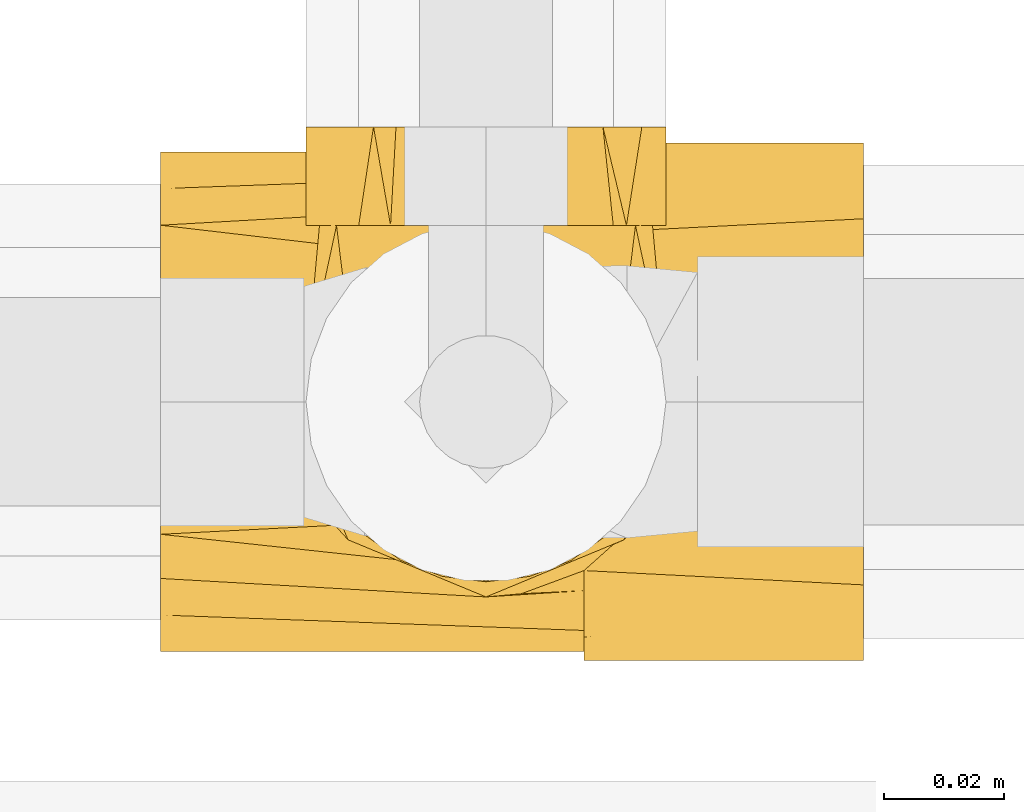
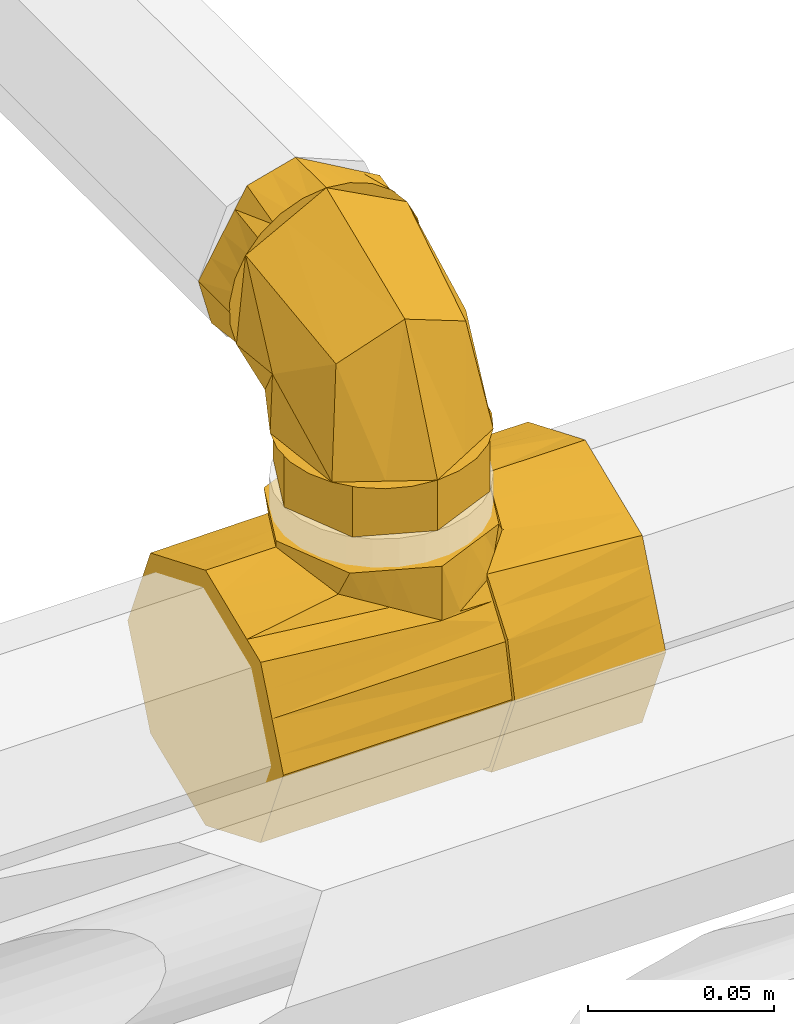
# One storey, part 178 of 652: 2 coverings.
"""IFC2X3 building model written with IfcOpenShell, lengths in millimetres."""

from ifc_helpers import new_model, entity, si_unit, converted_unit, direction, frame, origin, place, context, subcontext, project, spatial, face_set, faceted_brep, surface_model, material, type_object, element, save


model = new_model("IFC2X3")

# Units and contexts
model_context = context("Model", 3, precision=0.01, world=frame((0.0, 0.0, 308426.39999999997)), true_north=direction((6.123233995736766e-17, 1.0)))
plan_context = context("Plan", 3, precision=0.01, world=frame((0.0, 0.0, 308426.39999999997)), true_north=direction((6.123233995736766e-17, 1.0)))
body_context = subcontext(model_context, "Body", "Model", "MODEL_VIEW")
ifc_project = project(units=[si_unit("LENGTHUNIT", "METRE", prefix="MILLI"), si_unit("AREAUNIT", "SQUARE_METRE"), si_unit("VOLUMEUNIT", "CUBIC_METRE"), converted_unit("PLANEANGLEUNIT", "DEGREE", entity("IfcPlaneAngleMeasure", 0.017453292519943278), si_unit("PLANEANGLEUNIT", "RADIAN"), dimensions=[0, 0, 0, 0, 0, 0, 0])], contexts=[model_context, plan_context])

# Site, building, storey
site_placement = place(None, origin())
site = spatial("IfcSite", under=ifc_project, at=site_placement, Name="Default", CompositionType="ELEMENT")
building_placement = place(site_placement, origin())
building = spatial("IfcBuilding", under=site, at=building_placement, CompositionType="ELEMENT")
storey_placement = place(building_placement, frame((0.0, 0.0, 1730.6999999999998)))
storey = spatial("IfcBuildingStorey", under=building, at=storey_placement, Name="EG_Produktion_FFB", CompositionType="ELEMENT", Elevation=1730.6999999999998)

# Coverings
ifc_material = material(Name="Dämmung - Armaflex-Schlauch")
covering_type = type_object("IfcCoveringType", Name="Rohrdämmung außen:Armaflex-Schlauch", PredefinedType="INSULATION")
covering_1_placement = place(storey_placement, frame((67795.55274997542, 40830.09072776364, 3844.9092722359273)))
element("IfcCovering", 1, at=covering_1_placement, inside=storey, type_object=covering_type, material=ifc_material, Name="Rohrdämmung außen:Armaflex-Schlauch", ObjectType="Rohrdämmung außen:Armaflex-Schlauch", PredefinedType="INSULATION", context=body_context, shape_type="Brep", body=[
    faceted_brep([(70.84175000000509, 75.53689535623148, -75.53689535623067), (70.84175000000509, 67.87998957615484, -78.70848957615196), (70.84175000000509, 60.223083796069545, -81.88008379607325), (70.84175000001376, 53.27280760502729, -84.75898245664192), (70.84175000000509, 44.909272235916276, -88.22327223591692), (70.84175000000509, 36.545735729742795, -84.75898198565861), (70.84175000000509, 29.595460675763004, -81.88008379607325), (70.84175000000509, 21.938554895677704, -78.70848957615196), (70.84175000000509, 14.281649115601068, -75.53689535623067), (70.84175000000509, 11.110054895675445, -67.87998957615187), (70.84175000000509, 7.938460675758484, -60.22308379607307), (70.84175000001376, 5.059562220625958, -53.27280810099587), (70.84175000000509, 1.5952722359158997, -44.909272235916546), (70.84175000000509, 3.5716617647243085, -35.8705101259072), (70.84175000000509, 5.54805129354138, -26.83174801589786), (70.84175000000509, 11.113229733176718, -19.445522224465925), (70.84175000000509, 16.678408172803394, -12.05929643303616), (70.84175000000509, 16.678408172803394, -14.098607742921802), (70.84174999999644, 13.318469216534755, -18.78714706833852), (70.84175000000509, 9.958530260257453, -23.475686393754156), (70.84175000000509, 6.6600618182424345, -28.078448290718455), (70.84174999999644, 4.890417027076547, -36.49386026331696), (70.84175000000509, 3.1207722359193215, -44.909272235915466), (70.84175000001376, 6.180664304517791, -52.29650516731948), (70.84175000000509, 9.240556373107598, -59.683738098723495), (70.84175000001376, 12.300448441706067, -67.07097103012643), (70.84175000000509, 15.360340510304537, -74.45820396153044), (70.84175000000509, 24.904273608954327, -78.41143048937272), (70.84175000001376, 34.44820670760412, -82.36465701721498), (70.84175000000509, 44.909272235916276, -86.69777223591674), (70.84175000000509, 52.296505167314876, -83.63788016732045), (70.84175000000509, 59.683738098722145, -80.57798809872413), (70.84175000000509, 67.07097103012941, -77.51809603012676), (70.84175000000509, 74.45820396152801, -74.45820396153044), (70.84175000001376, 78.41143078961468, -64.91427013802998), (70.84175000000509, 82.36465761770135, -55.37033631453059), (70.84175000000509, 86.69777223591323, -44.909272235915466), (70.84175000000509, 84.92812744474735, -36.493860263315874), (70.84175000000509, 83.15848265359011, -28.078448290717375), (70.84174999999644, 79.86001420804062, -23.47568638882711), (70.84175000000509, 76.50007525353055, -18.78714706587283), (70.84175000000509, 74.8201057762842, -16.442877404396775), (70.84175000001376, 73.98012103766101, -15.270742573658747), (70.84175000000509, 73.14013629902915, -14.098607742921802), (70.84175000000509, 73.14013629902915, -12.059296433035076), (70.84175000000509, 78.70531473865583, -19.445522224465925), (70.84175000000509, 84.27049317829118, -26.83174801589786), (70.84175000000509, 86.24688270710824, -35.870510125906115), (70.84175000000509, 88.22327223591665, -44.909272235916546), (70.84175000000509, 84.75898211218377, -53.272808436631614), (70.84175000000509, 81.29469198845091, -61.63634463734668), (70.84175000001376, 78.4157936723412, -68.58661999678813), (117.59400000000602, 4.766866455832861, -52.56617801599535), (117.59399999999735, 7.938460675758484, -60.22308379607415), (117.59400000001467, 11.110054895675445, -67.87998957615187), (117.59400000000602, 14.281649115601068, -75.53689535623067), (117.59400000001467, 21.23192365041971, -78.41579333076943), (117.59400000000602, 28.18219818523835, -81.2946913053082), (117.59400000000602, 36.54573521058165, -84.75898177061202), (117.59400000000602, 44.909272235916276, -88.22327223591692), (117.59400000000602, 52.56617801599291, -85.05167801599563), (117.59400000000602, 60.223083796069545, -81.88008379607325), (117.59400000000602, 67.87998957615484, -78.70848957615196), (117.59400000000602, 75.53689535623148, -75.53689535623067), (117.59400000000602, 78.7084895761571, -67.87998957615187), (117.59400000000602, 81.88008379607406, -60.22308379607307), (117.59400000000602, 85.05167801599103, -52.56617801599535), (117.59400000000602, 88.22327223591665, -44.909272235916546), (117.59399999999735, 84.75898247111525, -36.54573690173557), (117.59400000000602, 81.88008379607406, -29.595460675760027), (117.59400000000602, 78.7084895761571, -21.93855489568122), (117.59400000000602, 75.53689535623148, -14.281649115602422), (117.59400000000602, 67.87998957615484, -11.11005489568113), (117.59399999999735, 60.223083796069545, -7.9384606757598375), (117.59399999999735, 52.56617801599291, -4.766866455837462), (117.59400000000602, 44.909272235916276, -1.5952722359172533), (117.59399999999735, 36.54573689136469, -5.059562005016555), (117.59400000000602, 29.595460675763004, -7.9384606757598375), (117.59399999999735, 21.938554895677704, -11.11005489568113), (117.59400000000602, 14.281649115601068, -14.281649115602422), (117.59400000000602, 11.110054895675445, -21.93855489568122), (117.59400000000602, 7.938460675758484, -29.595460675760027), (117.59400000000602, 4.766866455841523, -37.252366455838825), (117.59400000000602, 1.5952722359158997, -44.909272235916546), (83.84790964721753, 35.14120450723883, -3.923265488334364), (87.09325000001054, 44.909272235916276, -1.5952722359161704), (86.8904162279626, 44.29876800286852, -1.7407718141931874), (86.68758245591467, 43.688263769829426, -1.8862713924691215), (86.28191491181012, 42.467255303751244, -2.1772705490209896), (85.87624736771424, 41.2462468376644, -2.4682697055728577), (85.47057982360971, 40.02523837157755, -2.7592688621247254), (85.06491227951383, 38.80422990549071, -3.0502680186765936), (84.65924473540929, 37.583221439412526, -3.3412671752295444), (80.60256929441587, 25.373136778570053, -6.2512587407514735), (75.72215964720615, 21.025772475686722, -9.155277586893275), (83.03657455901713, 32.6991875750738, -4.5052638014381), (82.2252394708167, 30.257170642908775, -5.087262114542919), (84.06491373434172, 58.64081661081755, -3.8295048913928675), (84.44345576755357, 56.92437356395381, -3.5502258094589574), (84.82199780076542, 55.20793051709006, -3.270946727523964), (85.20053983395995, 53.491487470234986, -2.991667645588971), (85.5790818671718, 51.77504442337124, -2.7123885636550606), (85.95762390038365, 50.058601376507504, -2.4331094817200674), (86.14689491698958, 49.20037985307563, -2.2934699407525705), (86.3361659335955, 48.34215832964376, -2.153830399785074), (86.52543695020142, 47.48393680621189, -2.0141908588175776), (86.71470796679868, 46.625715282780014, -1.8745513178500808), (86.90397898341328, 45.76749375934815, -1.734911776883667), (77.45333186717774, 65.89047645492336, -7.9444006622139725), (80.75912280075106, 62.26564653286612, -5.886952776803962), (82.41201826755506, 60.45323157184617, -4.858228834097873), (0.0, 74.45820396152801, -15.360340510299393), (0.0, 77.51809603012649, -22.74757344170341), (0.0, 80.57798809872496, -30.134806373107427), (0.0, 83.63788016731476, -37.522039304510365), (0.0, 86.69777223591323, -44.9092722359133), (0.0, 83.63788016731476, -52.296505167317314), (0.0, 80.57798809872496, -59.683738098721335), (0.0, 77.51809603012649, -67.07097103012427), (0.0, 74.45820396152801, -74.4582039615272), (0.0, 67.07097103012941, -77.51809603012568), (0.0, 59.683738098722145, -80.57798809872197), (0.0, 52.296505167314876, -83.63788016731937), (0.0, 44.909272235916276, -86.6977722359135), (0.0, 37.52203930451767, -83.63788016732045), (0.0, 30.134806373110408, -80.57798809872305), (0.0, 22.74757344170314, -77.51809603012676), (0.0, 15.360340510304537, -74.4582039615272), (0.0, 12.300448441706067, -67.07097103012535), (0.0, 9.240556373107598, -59.683738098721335), (0.0, 6.180664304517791, -52.296505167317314), (0.0, 3.1207722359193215, -44.9092722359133), (0.0, 5.287329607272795, -39.6787400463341), (0.0, 9.240556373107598, -30.134806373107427), (0.0, 12.30044844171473, -22.74757344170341), (0.0, 15.360340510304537, -15.360340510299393), (0.0, 22.74757344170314, -12.300448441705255), (0.0, 30.134806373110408, -9.240556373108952), (0.0, 37.52203930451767, -6.180664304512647), (0.0, 44.909272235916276, -3.120772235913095), (0.0, 52.296505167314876, -6.180664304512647), (0.0, 59.683738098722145, -9.240556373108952), (0.0, 67.07097103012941, -12.300448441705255), (29.171926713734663, 24.2472455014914, -8.586285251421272), (54.44725000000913, 12.26327223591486, -18.82254349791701), (21.801250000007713, 44.909272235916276, -3.1207722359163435), (60.37602925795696, 12.806143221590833, -18.157303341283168), (41.809588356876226, 18.2552588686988, -13.70441437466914), (35.49075753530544, 21.251252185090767, -11.145349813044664), (25.486588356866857, 34.57825886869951, -5.853528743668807), (23.643919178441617, 39.74376555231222, -4.487150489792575), (47.630199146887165, 15.495490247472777, -16.06170470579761), (27.32925753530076, 29.412752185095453, -7.219906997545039), (34.14671943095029, 70.47584757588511, -11.854333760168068), (44.29698471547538, 74.01555990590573, -15.338438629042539), (54.44725000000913, 77.55527223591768, -18.822543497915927), (27.973984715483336, 57.69255990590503, -7.487552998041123), (31.060352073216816, 64.0842037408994, -9.670943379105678), (24.887617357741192, 51.30091607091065, -5.3041626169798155), (65.86359774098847, 75.49404492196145, -16.433836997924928), (67.31126014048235, 74.80952086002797, -15.754744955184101), (68.7589225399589, 74.12499679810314, -15.075652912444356), (62.20681236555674, 76.15427935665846, -17.198966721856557), (23.344433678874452, 48.10509415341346, -4.212467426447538), (60.2183019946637, 14.653720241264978, -1.050322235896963), (65.98935398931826, 17.044168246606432, -1.050322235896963), (71.76040598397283, 19.434616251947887, -1.050322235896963), (77.5314579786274, 21.825064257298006, -1.050322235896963), (79.92190598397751, 27.596116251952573, -1.050322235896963), (81.11712998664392, 30.481642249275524, -1.050322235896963), (82.31235398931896, 33.36716824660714, -1.050322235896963), (83.50757799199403, 36.252694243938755, -1.0503222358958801), (84.10518999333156, 37.6954572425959, -1.050322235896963), (84.70280199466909, 39.138220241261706, -1.050322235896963), (85.30041399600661, 40.58098323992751, -1.050322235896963), (85.89802599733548, 42.02374623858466, -1.050322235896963), (86.19683199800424, 42.7451277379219, -1.050322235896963), (86.49563799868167, 43.46650923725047, -1.050322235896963), (86.79444399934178, 44.18789073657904, -1.050322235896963), (87.09325000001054, 44.909272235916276, -1.050322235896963), (86.79444399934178, 45.63065373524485, -1.050322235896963), (86.49563799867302, 46.35203523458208, -1.0503222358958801), (86.19683199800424, 47.073416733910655, -1.050322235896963), (85.89802599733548, 47.79479823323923, -1.050322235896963), (85.30041399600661, 49.23756123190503, -1.050322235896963), (84.70280199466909, 50.68032423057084, -1.050322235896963), (84.10518999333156, 52.12308722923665, -1.050322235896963), (83.50757799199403, 53.5658502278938, -1.050322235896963), (82.9099659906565, 55.0086132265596, -1.050322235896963), (82.31235398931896, 56.45137622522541, -1.050322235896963), (81.11712998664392, 59.33690222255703, -1.050322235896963), (79.92190598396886, 62.22242821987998, -1.050322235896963), (77.5314579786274, 67.99348021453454, -1.050322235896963), (71.76040598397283, 70.38392821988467, -1.050322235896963), (65.98935398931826, 72.77437622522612, -1.050322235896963), (60.2183019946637, 75.16482423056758, -1.050322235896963), (54.44725000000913, 77.55527223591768, -1.050322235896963), (48.67619800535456, 75.16482423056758, -1.050322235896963), (42.905146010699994, 72.77437622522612, -1.050322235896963), (37.134094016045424, 70.38392821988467, -1.050322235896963), (31.363042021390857, 67.99348021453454, -1.050322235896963), (28.972594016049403, 62.22242821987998, -1.050322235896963), (26.582146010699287, 56.45137622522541, -1.050322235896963), (24.191698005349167, 50.68032423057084, -1.050322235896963), (22.99647400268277, 47.79479823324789, -1.050322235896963), (21.801250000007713, 44.909272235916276, -1.050322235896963), (24.191698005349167, 39.138220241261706, -1.050322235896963), (26.582146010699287, 33.36716824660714, -1.050322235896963), (28.972594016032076, 27.596116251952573, -1.050322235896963), (31.363042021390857, 21.825064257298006, -1.050322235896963), (37.134094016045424, 19.434616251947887, -1.050322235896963), (42.905146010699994, 17.044168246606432, -1.050322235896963), (48.67619800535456, 14.653720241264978, -1.050322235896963), (54.44725000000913, 12.26327223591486, -1.050322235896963), (54.44725000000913, 77.55527223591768, -13.519347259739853)], [[[0, 1, 2, 3, 4, 5, 6, 7, 8, 9, 10, 11, 12, 13, 14, 15, 16, 17, 18, 19, 20, 21, 22, 23, 24, 25, 26, 27, 28, 29, 30, 31, 32, 33, 34, 35, 36, 37, 38, 39, 40, 41, 42, 43, 44, 45, 46, 47, 48, 49, 50, 51]], [[52, 53, 54, 55, 56, 57, 58, 59, 60, 61, 62, 63, 64, 65, 66, 67, 68, 69, 70, 71, 72, 73, 74, 75, 76, 77, 78, 79, 80, 81, 82, 83]], [[57, 56, 55, 8, 7, 6, 5, 4, 59, 58]], [[8, 55, 54, 53, 52, 83, 12, 11, 10, 9]], [[15, 80, 79]], [[84, 77, 76]], [[13, 81, 14]], [[81, 80, 14]], [[78, 16, 79]], [[76, 85, 86, 87, 88, 89, 90, 91, 92, 84]], [[14, 80, 15]], [[78, 93, 94, 16]], [[82, 12, 83]], [[79, 16, 15]], [[77, 84, 95, 96, 93]], [[12, 82, 13]], [[76, 75, 85]], [[78, 77, 93]], [[82, 81, 13]], [[45, 71, 70]], [[47, 69, 68]], [[74, 97, 98, 99, 100, 101, 102, 103, 104, 105, 106, 107, 85]], [[44, 72, 71]], [[108, 73, 72]], [[71, 45, 44]], [[69, 47, 46]], [[74, 73, 97]], [[73, 108, 109, 110, 97]], [[68, 48, 47]], [[74, 85, 75]], [[70, 46, 45]], [[70, 69, 46]], [[72, 44, 108]], [[68, 67, 48]], [[63, 0, 51, 50, 49, 48, 67, 66, 65, 64]], [[0, 63, 62, 61, 60, 59, 4, 3, 2, 1]], [[111, 112, 113, 114, 115, 116, 117, 118, 119, 120, 121, 122, 123, 124, 125, 126, 127, 128, 129, 130, 131, 132, 133, 134, 135, 136, 137, 138, 139, 140, 141, 142]], [[29, 28, 27, 26, 127, 126, 125, 124, 123]], [[127, 26, 25, 24, 23, 22, 131, 130, 129, 128]], [[133, 21, 20]], [[143, 137, 136]], [[132, 22, 21]], [[134, 19, 144]], [[138, 145, 139]], [[134, 133, 19]], [[18, 17, 146]], [[144, 18, 146]], [[136, 147, 148, 143]], [[19, 18, 144]], [[135, 147, 136]], [[149, 138, 137]], [[22, 132, 131]], [[138, 149, 150, 145]], [[133, 132, 21]], [[135, 144, 151, 147]], [[144, 135, 134]], [[137, 143, 152, 149]], [[133, 20, 19]], [[111, 153, 154, 155]], [[153, 111, 142]], [[142, 156, 157, 153]], [[140, 158, 156]], [[42, 41, 40, 159, 160, 161, 43]], [[142, 141, 140, 156]], [[113, 37, 114]], [[40, 39, 155]], [[40, 155, 162, 159]], [[39, 112, 155]], [[113, 39, 38]], [[36, 115, 114]], [[139, 145, 163, 158]], [[139, 158, 140]], [[113, 38, 37]], [[36, 114, 37]], [[112, 39, 113]], [[112, 111, 155]], [[33, 119, 118, 117, 116, 115, 36, 35, 34]], [[32, 31, 30, 29, 123, 122, 121, 120, 119, 33]], [[164, 165, 166, 167, 168, 169, 170, 171, 172, 173, 174, 175, 176, 177, 178, 179, 180, 181, 182, 183, 184, 185, 186, 187, 188, 189, 190, 191, 192, 193, 194, 195, 196, 197, 198, 199, 200, 201, 202, 203, 204, 205, 206, 207, 208, 209, 210, 211, 212, 213]], [[168, 167, 93]], [[88, 177, 176, 175]], [[16, 94, 166]], [[171, 170, 84]], [[167, 94, 93]], [[166, 165, 16]], [[213, 144, 146]], [[16, 146, 17]], [[146, 165, 164, 213]], [[168, 96, 169]], [[170, 95, 84]], [[169, 95, 170]], [[90, 174, 173]], [[95, 169, 96]], [[96, 168, 93]], [[92, 171, 84]], [[173, 91, 90]], [[171, 92, 172]], [[172, 91, 173]], [[87, 178, 177]], [[91, 172, 92]], [[89, 174, 90]], [[175, 89, 88]], [[174, 89, 175]], [[86, 179, 178]], [[177, 88, 87]], [[179, 86, 85]], [[178, 87, 86]], [[94, 167, 166]], [[165, 146, 16]], [[147, 210, 148]], [[207, 152, 208]], [[211, 151, 213, 212]], [[151, 211, 147]], [[152, 143, 208]], [[206, 150, 149]], [[143, 209, 208]], [[150, 205, 145]], [[207, 149, 152]], [[149, 207, 206]], [[205, 150, 206]], [[209, 143, 148]], [[144, 213, 151]], [[210, 147, 211]], [[210, 209, 148]], [[157, 201, 200]], [[156, 202, 201]], [[158, 203, 202]], [[199, 198, 153, 200]], [[154, 153, 198]], [[155, 154, 197]], [[163, 204, 203]], [[157, 156, 201]], [[197, 196, 214, 155]], [[200, 153, 157]], [[202, 156, 158]], [[204, 145, 205]], [[203, 158, 163]], [[145, 204, 163]], [[154, 198, 197]], [[44, 43, 161, 160, 159]], [[194, 159, 195]], [[108, 191, 110, 109]], [[44, 194, 193]], [[191, 108, 192]], [[101, 186, 185]], [[101, 185, 102]], [[190, 97, 110]], [[97, 190, 189]], [[159, 194, 44]], [[97, 189, 98]], [[108, 44, 193]], [[110, 191, 190]], [[193, 192, 108]], [[183, 105, 104]], [[188, 98, 189]], [[187, 100, 99]], [[99, 188, 187]], [[100, 186, 101]], [[98, 188, 99]], [[181, 107, 106]], [[104, 184, 183]], [[186, 100, 187]], [[184, 104, 103, 102]], [[102, 185, 184]], [[180, 85, 107]], [[106, 182, 181]], [[182, 106, 105]], [[105, 183, 182]], [[85, 180, 179]], [[107, 181, 180]], [[214, 196, 195]], [[214, 162, 155]], [[162, 195, 159]], [[195, 162, 214]]]),
])
covering_2_placement = place(storey_placement, frame((67818.2922277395, 40843.29222776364, 3853.982749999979)))
element("IfcCovering", 2, at=covering_2_placement, inside=storey, type_object=covering_type, material=ifc_material, Name="Rohrdämmung außen:Armaflex-Schlauch", ObjectType="Rohrdämmung außen:Armaflex-Schlauch", PredefinedType="INSULATION", context=body_context, shape_type="SurfaceModel", body=[
    surface_model("IfcFaceBasedSurfaceModel", [(37.72833167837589, 61.21227223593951, 16.51275000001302), (44.705724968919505, 58.87053868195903, 16.51275000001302), (50.906653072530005, 54.90616939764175, 16.51275000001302), (55.96068805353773, 49.55598588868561, 16.512750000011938), (59.565914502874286, 43.13959473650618, 16.512750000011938), (61.50696520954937, 36.0402951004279, 16.512750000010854), (61.66788665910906, 28.682181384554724, 16.512750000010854), (60.03906580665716, 21.504808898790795, 16.51275000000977), (56.71780433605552, 14.93693592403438, 16.51275000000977), (51.902506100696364, 9.370910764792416, 16.512750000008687), (45.880824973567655, 5.139233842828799, 16.512750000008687), (39.012481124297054, 2.494694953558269, 16.512750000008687), (31.707772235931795, 1.5952722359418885, 16.512750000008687), (24.403063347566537, 2.494694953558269, 16.512750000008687), (17.53471949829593, 5.139233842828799, 16.512750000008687), (11.513038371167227, 9.370910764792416, 16.512750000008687), (6.6977401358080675, 14.93693592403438, 16.51275000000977), (3.3764786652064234, 21.504808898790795, 16.51275000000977), (1.7476578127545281, 28.682181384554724, 16.512750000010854), (1.9085792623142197, 36.0402951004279, 16.512750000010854), (3.8496299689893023, 43.13959473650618, 16.512750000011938), (7.454856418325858, 49.55598588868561, 16.512750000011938), (12.508891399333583, 54.90616939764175, 16.51275000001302), (18.709819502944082, 58.87053868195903, 16.51275000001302), (25.6872127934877, 61.21227223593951, 16.51275000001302), (44.705724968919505, 61.21227223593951, 18.85448355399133), (50.906653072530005, 61.21227223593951, 22.81885283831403), (55.96068805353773, 61.21227223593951, 28.169036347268), (59.565914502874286, 61.21227223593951, 34.58542749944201), (61.50696520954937, 61.21227223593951, 41.68472713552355), (61.66788665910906, 61.21227223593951, 49.04284085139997), (60.03906580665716, 61.21227223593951, 56.22021333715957), (56.71780433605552, 61.21227223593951, 62.78808631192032), (51.902506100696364, 61.21227223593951, 68.35411147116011), (45.880824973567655, 61.21227223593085, 72.58578839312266), (39.012481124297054, 61.21227223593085, 75.2303272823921), (31.707772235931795, 61.21227223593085, 76.1297500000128), (24.403063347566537, 61.21227223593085, 75.2303272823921), (17.53471949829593, 61.21227223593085, 72.58578839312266), (11.513038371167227, 61.21227223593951, 68.35411147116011), (6.6977401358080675, 61.21227223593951, 62.78808631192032), (3.3764786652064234, 61.21227223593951, 56.22021333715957), (1.7476578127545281, 61.21227223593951, 49.04284085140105), (1.9085792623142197, 61.21227223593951, 41.68472713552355), (3.8496299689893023, 61.21227223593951, 34.58542749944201), (7.454856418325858, 61.21227223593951, 28.169036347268), (12.508891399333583, 61.21227223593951, 22.81885283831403), (18.709819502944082, 61.21227223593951, 18.85448355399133), (55.881087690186, 52.31852663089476, 23.87781671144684), (48.448983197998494, 61.21100709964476, 25.383538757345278), (48.448983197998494, 52.34178102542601, 16.512568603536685), (51.80226688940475, 21.25530641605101, 49.683799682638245), (43.984139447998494, 8.144478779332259, 16.512568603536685), (61.666781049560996, 38.207760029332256, 39.51523431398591), (58.1414148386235, 61.21100709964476, 48.6867675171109), (31.705819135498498, 19.055440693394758, 58.66813500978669), (44.21203251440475, 61.21100709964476, 69.45875543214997), (58.1414148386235, 29.03622682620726, 16.512568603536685), (7.535201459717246, 52.31852663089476, 23.87781671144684), (14.967305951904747, 52.34178102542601, 16.512568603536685), (11.614022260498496, 21.25530641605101, 49.683799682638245), (19.432149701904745, 8.144478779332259, 16.512568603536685), (14.767318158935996, 61.21100709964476, 25.549226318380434), (1.7495081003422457, 38.207760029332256, 39.51523431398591), (19.204256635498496, 61.21100709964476, 69.45875543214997), (5.274874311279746, 29.03622682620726, 16.512568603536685), (5.274874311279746, 61.21100709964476, 48.6867675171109), (31.707772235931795, 1.5952722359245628, 0.0), (24.844664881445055, 4.4380643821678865, 0.0), (21.06139576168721, 6.005145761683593, 0.0), (15.738207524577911, 8.21008252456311, 0.0), (10.415019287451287, 10.415019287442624, 0.0), (8.210082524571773, 15.738207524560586, 0.0), (6.005145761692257, 21.061395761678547, 0.0), (3.800208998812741, 26.38458399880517, 0.0), (1.5952722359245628, 31.70777223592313, 0.0), (4.438064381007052, 38.570879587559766, 0.0), (6.005145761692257, 42.35414871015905, 0.0), (8.210082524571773, 47.677336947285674, 0.0), (10.415019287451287, 53.000525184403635, 0.0), (15.738207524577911, 55.205461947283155, 0.0), (21.06139576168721, 57.410398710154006, 0.0), (26.384583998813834, 59.61533547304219, 0.0), (31.707772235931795, 61.8202722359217, 0.0), (38.57087958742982, 58.977480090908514, 0.0), (42.35414871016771, 57.410398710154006, 0.0), (47.677336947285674, 55.205461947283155, 0.0), (53.000525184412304, 53.000525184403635, 0.0), (55.205461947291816, 47.677336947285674, 0.0), (57.410398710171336, 42.35414871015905, 0.0), (59.61533547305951, 37.03096047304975, 0.0), (61.82027223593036, 31.70777223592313, 0.0), (58.977480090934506, 24.844664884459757, 0.0), (57.410398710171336, 21.06139576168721, 0.0), (55.205461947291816, 15.738207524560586, 0.0), (53.000525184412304, 10.415019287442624, 0.0), (47.67733694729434, 8.21008252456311, 0.0), (42.35414871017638, 6.005145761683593, 0.0), (37.03096047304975, 3.800208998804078, 0.0), (1.5952722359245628, 31.707772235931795, 16.512750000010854), (3.800208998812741, 26.384583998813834, 16.51275000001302), (6.005145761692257, 21.06139576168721, 16.51275000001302), (8.210082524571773, 15.738207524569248, 16.512750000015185), (10.415019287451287, 10.415019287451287, 16.512750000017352), (17.981557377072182, 7.280856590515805, 16.512750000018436), (24.84466480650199, 4.438064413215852, 16.512750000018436), (31.707772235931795, 1.5952722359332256, 16.512750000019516), (37.03096047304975, 3.800208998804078, 16.512750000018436), (42.35414871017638, 6.005145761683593, 16.512750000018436), (47.677336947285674, 8.21008252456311, 16.512750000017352), (53.000525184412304, 10.415019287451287, 16.512750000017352), (56.13468794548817, 17.981557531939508, 16.512750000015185), (58.97748009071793, 24.84466488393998, 16.51275000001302), (61.82027223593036, 31.707772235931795, 16.512750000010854), (59.61533547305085, 37.03096047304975, 16.512750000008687), (57.410398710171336, 42.35414871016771, 16.512750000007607), (55.205461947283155, 47.677336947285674, 16.51275000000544), (53.000525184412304, 53.000525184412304, 16.512750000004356), (45.43398694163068, 56.13468794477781, 16.512750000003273), (38.57087958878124, 58.977480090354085, 16.512750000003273), (31.707772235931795, 61.82027223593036, 16.512750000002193), (26.384583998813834, 59.61533547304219, 16.512750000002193), (21.06139576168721, 57.410398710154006, 16.512750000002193), (15.738207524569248, 55.205461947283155, 16.512750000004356), (10.415019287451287, 53.000525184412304, 16.512750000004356), (7.280856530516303, 45.43398694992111, 16.512750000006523), (4.438064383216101, 38.57087959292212, 16.512750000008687), (31.707772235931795, 77.72502223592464, 76.1297500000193), (38.227319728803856, 77.72502223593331, 72.36568750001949), (44.74686722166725, 77.72502223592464, 68.60162500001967), (51.26641471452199, 77.72502223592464, 64.83756250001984), (57.78596220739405, 77.72502223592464, 61.07350000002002), (59.803117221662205, 77.72502223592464, 53.54537500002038), (61.82027223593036, 77.72502223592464, 46.01725000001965), (58.05620973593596, 77.72502223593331, 39.497702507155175), (54.29214723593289, 77.72502223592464, 32.978155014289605), (50.528084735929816, 77.72502223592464, 26.45860752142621), (46.76402223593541, 77.72502223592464, 19.939060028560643), (39.23589723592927, 77.72502223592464, 17.921905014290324), (31.707772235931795, 77.72502223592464, 15.904750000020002), (25.188224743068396, 77.72502223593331, 19.668812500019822), (18.668677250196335, 77.72502223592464, 23.432875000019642), (12.149129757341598, 77.72502223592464, 27.196937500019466), (5.629582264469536, 77.72502223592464, 30.961000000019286), (3.6124272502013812, 77.72502223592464, 38.48912500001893), (1.5952722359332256, 77.72502223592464, 46.01725000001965), (5.3593347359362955, 77.72502223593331, 52.53679749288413), (9.123397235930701, 77.72502223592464, 59.056344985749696), (12.887459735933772, 77.72502223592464, 65.57589247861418), (16.65152223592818, 77.72502223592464, 72.09543997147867), (24.17964723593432, 77.72502223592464, 74.11259498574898), (31.707772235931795, 61.21227223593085, 76.1297500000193), (26.384583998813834, 61.21227223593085, 73.92481323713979), (21.06139576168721, 61.21227223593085, 71.7198764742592), (15.738207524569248, 61.21227223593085, 69.51493971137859), (10.415019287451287, 61.21227223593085, 67.31000294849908), (8.210082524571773, 61.21227223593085, 61.98681471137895), (6.005145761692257, 61.21227223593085, 56.66362647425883), (3.800208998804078, 61.212272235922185, 51.3404382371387), (1.5952722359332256, 61.21227223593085, 46.01725000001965), (3.800208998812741, 61.21227223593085, 40.69406176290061), (6.005145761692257, 61.21227223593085, 35.37087352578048), (8.210082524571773, 61.21227223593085, 30.047685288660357), (10.415019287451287, 61.21227223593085, 24.724497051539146), (15.738207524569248, 61.21227223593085, 22.519560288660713), (21.06139576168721, 61.21227223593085, 20.314623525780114), (26.384583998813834, 61.21227223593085, 18.109686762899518), (31.707772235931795, 61.21227223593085, 15.904750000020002), (37.03096047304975, 61.21227223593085, 18.109686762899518), (42.35414871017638, 61.21227223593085, 20.314623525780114), (47.67733694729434, 61.21227223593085, 22.519560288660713), (53.000525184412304, 61.21227223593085, 24.724497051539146), (55.205461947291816, 61.21227223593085, 30.047685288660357), (57.410398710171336, 61.21227223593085, 35.37087352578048), (59.61533547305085, 61.21227223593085, 40.69406176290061), (61.82027223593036, 61.21227223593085, 46.01725000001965), (59.61533547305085, 61.21227223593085, 51.34043823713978), (57.410398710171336, 61.21227223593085, 56.66362647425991), (55.205461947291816, 61.21227223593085, 61.986814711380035), (53.000525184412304, 61.21227223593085, 67.31000294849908), (47.67733694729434, 61.21227223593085, 69.51493971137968), (42.35414871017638, 61.21227223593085, 71.71987647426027), (37.03096047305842, 61.21227223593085, 73.92481323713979)], [face_set([[[0, 1, 2, 3, 4, 5, 6, 7, 8, 9, 10, 11, 12, 13, 14, 15, 16, 17, 18, 19, 20, 21, 22, 23]], [[24, 25, 26, 27, 28, 29, 30, 31, 32, 33, 34, 35, 36, 37, 38, 39, 40, 41, 42, 43, 44, 45, 46, 47]], [[48, 0, 49]], [[50, 48, 4]], [[51, 52, 8]], [[53, 4, 48]], [[53, 28, 54, 32]], [[48, 49, 28]], [[32, 51, 53]], [[55, 51, 56]], [[28, 53, 48]], [[56, 36, 55]], [[55, 52, 51]], [[48, 50, 0]], [[55, 12, 52]], [[53, 8, 57, 4]], [[8, 53, 51]], [[51, 32, 56]], [[58, 59, 20]], [[60, 61, 55]], [[24, 58, 62]], [[58, 20, 63]], [[16, 60, 63]], [[55, 64, 60]], [[24, 59, 58]], [[65, 16, 63, 20]], [[44, 58, 63]], [[58, 44, 62]], [[61, 60, 16]], [[61, 12, 55]], [[63, 40, 66, 44]], [[40, 63, 60]], [[64, 55, 36]], [[64, 40, 60]]]), face_set([[[67, 68, 69, 70, 71, 72, 73, 74, 75, 76, 77, 78, 79, 80, 81, 82, 83, 84, 85, 86, 87, 88, 89, 90, 91, 92, 93, 94, 95, 96, 97, 98]], [[99, 100, 101, 102, 103, 104, 105, 106, 107, 108, 109, 110, 111, 112, 113, 114, 115, 116, 117, 118, 119, 120, 121, 122, 123, 124, 125, 126]], [[105, 104, 103, 71, 70, 69, 68, 67, 106]], [[71, 103, 102, 101, 100, 99, 75, 74, 73, 72]], [[126, 125, 124, 79, 78, 77, 76, 75, 99]], [[79, 124, 123, 122, 121, 120, 83, 82, 81, 80]], [[119, 118, 117, 87, 86, 85, 84, 83, 120]], [[87, 117, 116, 115, 114, 113, 91, 90, 89, 88]], [[112, 111, 110, 95, 94, 93, 92, 91, 113]], [[95, 110, 109, 108, 107, 106, 67, 98, 97, 96]]]), face_set([[[127, 128, 129, 130, 131, 132, 133, 134, 135, 136, 137, 138, 139, 140, 141, 142, 143, 144, 145, 146, 147, 148, 149, 150]], [[151, 152, 153, 154, 155, 156, 157, 158, 159, 160, 161, 162, 163, 164, 165, 166, 167, 168, 169, 170, 171, 172, 173, 174, 175, 176, 177, 178, 179, 180, 181, 182]], [[170, 136, 171]], [[133, 174, 134]], [[174, 173, 134]], [[138, 169, 168]], [[168, 167, 139]], [[136, 170, 137]], [[135, 173, 172]], [[133, 175, 174]], [[173, 135, 134]], [[139, 138, 168]], [[172, 171, 136]], [[170, 169, 137]], [[138, 137, 169]], [[135, 172, 136]], [[178, 130, 179]], [[127, 182, 128]], [[182, 181, 128]], [[132, 177, 176]], [[176, 175, 133]], [[130, 178, 131]], [[129, 181, 180]], [[127, 151, 182]], [[181, 129, 128]], [[133, 132, 176]], [[180, 179, 130]], [[178, 177, 131]], [[132, 131, 177]], [[129, 180, 130]], [[154, 148, 155]], [[145, 158, 146]], [[158, 157, 146]], [[150, 153, 152]], [[152, 151, 127]], [[148, 154, 149]], [[147, 157, 156]], [[145, 159, 158]], [[157, 147, 146]], [[127, 150, 152]], [[156, 155, 148]], [[154, 153, 149]], [[150, 149, 153]], [[147, 156, 148]], [[162, 142, 163]], [[139, 166, 140]], [[166, 165, 140]], [[144, 161, 160]], [[160, 159, 145]], [[142, 162, 143]], [[141, 165, 164]], [[139, 167, 166]], [[165, 141, 140]], [[145, 144, 160]], [[164, 163, 142]], [[162, 161, 143]], [[144, 143, 161]], [[141, 164, 142]]])]),
])

save(model, "model.ifc")
